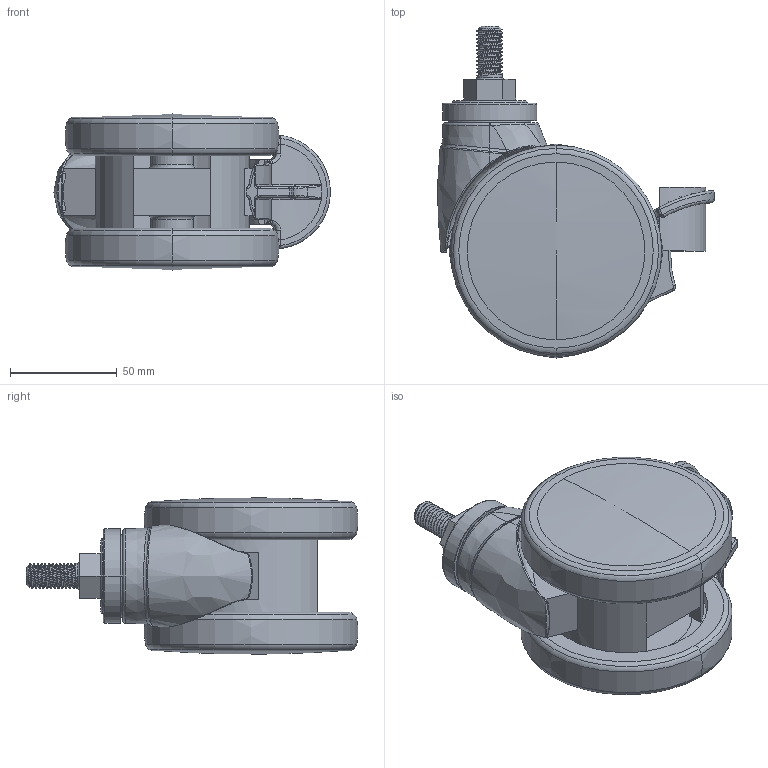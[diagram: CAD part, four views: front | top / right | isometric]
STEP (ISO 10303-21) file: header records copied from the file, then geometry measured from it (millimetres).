
FILE_DESCRIPTION((''),'2;1');
FILE_NAME('E19044H-57_ASM','2022-09-17T',('lenovo'),(''),'PRO/ENGINEER BY PARAMETRIC TECHNOLOGY CORPORATION, 2010280','PRO/ENGINEER BY PARAMETRIC TECHNOLOGY CORPORATION, 2010280','');
FILE_SCHEMA(('CONFIG_CONTROL_DESIGN'));
Length unit declared in the file: millimetre
Products named in the file (11): E1904-701; MANIFOLD_SOLID_BREP_93; MANIFOLD_SOLID_BREP_94; MANIFOLD_SOLID_BREP_95; ASM0003_ASM; LUNZI_ASM; E1904-251; SIKOU4; E1904-891; E1904-512; E19044H-57_ASM
Assembly tree (12 placements, depth 4):
  E19044H-57_ASM
    E1904-701
    LUNZI_ASM  x2
      ASM0003_ASM
        MANIFOLD_SOLID_BREP_93
        MANIFOLD_SOLID_BREP_94
        MANIFOLD_SOLID_BREP_95
    E1904-251
    SIKOU4
    E1904-891  x2
    E1904-512
Bounding box: 129.18 x 155.11 x 73.09 mm (x, y, z)
Volume: 362481.7 mm3; surface area: 164384.3 mm2
Topology: 13 solids, 22 shells, 839 faces, 2030 edges, 1258 vertices
Faces by surface type: plane 213, torus 213, bspline 190, cylinder 166, cone 33, sphere 20, extrusion 4
Entity records: 33704 total; most frequent: CARTESIAN_POINT 19499, ORIENTED_EDGE 3090, DIRECTION 2644, EDGE_CURVE 1569, AXIS2_PLACEMENT_3D 1096, VERTEX_POINT 977, EDGE_LOOP 699, FACE_OUTER_BOUND 651
